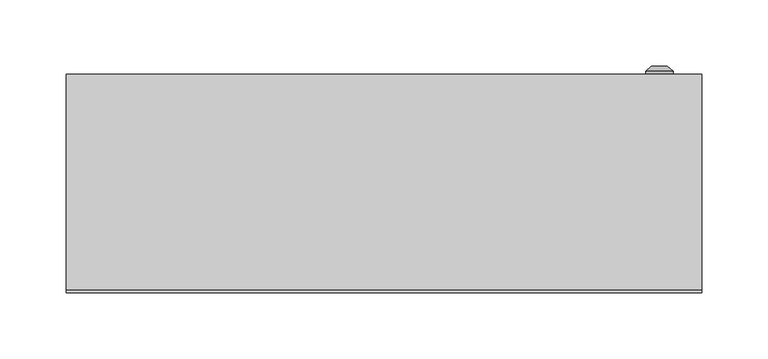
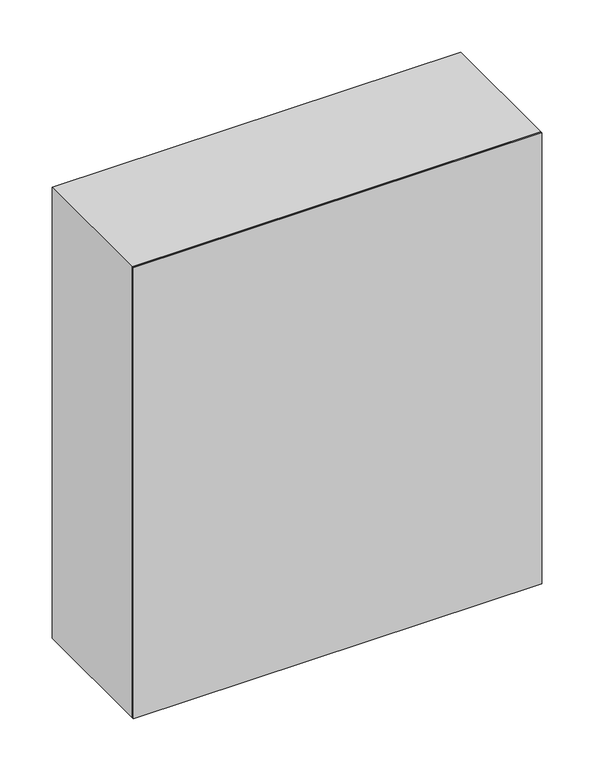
"""IFC4 building model written with IfcOpenShell, lengths in millimetres: proxy geometry, ЩУРН-3_24 : ЩУРН-3/24."""

from ifc_helpers import new_model, si_unit, point, frame, frame_2d, origin, origin_with_axes, place, context, project, spatial, polyline, circle_curve, trimmed, segment, composite_curve, outline, extrude, source, transform, mapped, element, save
from ifc_brep_helpers import plane_surface, cylinder_surface, revolved_surface, advanced_brep


def electrical_equipment_012ccbdc(model_context):
    return source(origin(), model_context, "Body", "SolidModel", [
        advanced_brep(
        [(197.669873, 165.0, 280.0), (218.330127, 165.0, 280.0), (208.0, 165.0, 280.0), (206.1080471, 171.0, 280.0), (209.8919529, 171.0, 280.0), (214.0, 171.0, 280.0), (202.0, 171.0, 280.0), (206.1080471, 169.9822294, 280.0), (209.8919529, 169.9822294, 280.0), (208.0, 169.9822294, 280.0), (197.669873, 167.366592, 280.0), (218.330127, 167.366592, 280.0)],
        [
            (0, 1, circle_curve(frame((208.0, 165.0, 280.0), z_axis=(0.0, -1.0, 0.0), x_axis=(1.0, 0.0, 0.0)), 10.330127)),
            (1, 2),
            (2, 0),
            (1, 0, circle_curve(frame((208.0, 165.0, 280.0), z_axis=(0.0, -1.0, 0.0), x_axis=(1.0, 0.0, 0.0)), 10.330127)),
            (3, 4, circle_curve(frame((208.0, 171.0, 280.0), z_axis=(0.0, -1.0, 0.0), x_axis=(1.0, 0.0, 0.0)), 1.8919529)),
            (4, 5),
            (5, 6, circle_curve(frame((208.0, 171.0, 280.0), z_axis=(0.0, 1.0, 0.0), x_axis=(1.0, 0.0, 0.0)), 6.0)),
            (6, 3),
            (4, 3, circle_curve(frame((208.0, 171.0, 280.0), z_axis=(0.0, -1.0, 0.0), x_axis=(1.0, 0.0, 0.0)), 1.8919529)),
            (6, 5, circle_curve(frame((208.0, 171.0, 280.0), z_axis=(0.0, 1.0, 0.0), x_axis=(1.0, 0.0, 0.0)), 6.0)),
            (7, 8, circle_curve(frame((208.0, 169.9822294, 280.0), z_axis=(0.0, -1.0, 0.0), x_axis=(1.0, 0.0, 0.0)), 1.8919529)),
            (8, 4),
            (3, 7),
            (8, 7, circle_curve(frame((208.0, 169.9822294, 280.0), z_axis=(0.0, -1.0, 0.0), x_axis=(1.0, 0.0, 0.0)), 1.8919529)),
            (9, 8),
            (7, 9),
            (10, 11, circle_curve(frame((208.0, 167.366592, 280.0), z_axis=(0.0, -1.0, 0.0), x_axis=(1.0, 0.0, 0.0)), 10.330127)),
            (11, 1),
            (0, 10),
            (11, 10, circle_curve(frame((208.0, 167.366592, 280.0), z_axis=(0.0, -1.0, 0.0), x_axis=(1.0, 0.0, 0.0)), 10.330127)),
            (5, 11),
            (10, 6),
        ],
        [
            plane_surface(frame((208.0, 165.0, 280.0), z_axis=(0.0, -1.0, 0.0), x_axis=(1.0, 0.0, 0.0))),
            plane_surface(frame((208.0, 171.0, 280.0), z_axis=(0.0, 1.0, 0.0), x_axis=(1.0, 0.0, 0.0))),
            revolved_surface(polyline([(209.8919529, 171.0, 280.0), (209.8919529, 169.9822294, 280.0)]), (208.0, 178.1348851, 280.0), (0.0, 1.0, 0.0)),
            plane_surface(frame((208.0, 169.9822294, 280.0), z_axis=(0.0, 1.0, 0.0), x_axis=(1.0, 0.0, 0.0))),
            cylinder_surface(frame((208.0, 178.1348851, 280.0), z_axis=(0.0, 1.0, 0.0), x_axis=(1.0, 0.0, 0.0)), 10.330127),
            revolved_surface(polyline([(218.330127, 167.366592, 280.0), (214.0, 171.0, 280.0)]), (208.0, 178.1348851, 280.0), (0.0, 1.0, 0.0)),
        ],
        [
            (0, [[1, 2, 3]]),
            (0, [[4, -3, -2]]),
            (1, [[5, 6, 7, 8]]),
            (1, [[9, -8, 10, -6]]),
            (2, [[11, 12, -5, 13]]),
            (2, [[14, -13, -9, -12]]),
            (3, [[15, -11, 16]]),
            (3, [[-16, -14, -15]]),
            (4, [[17, 18, -1, 19]]),
            (4, [[20, -19, -4, -18]]),
            (5, [[-7, 21, -17, 22]]),
            (5, [[-10, -22, -20, -21]]),
        ],
    ),
        extrude(outline(polyline([(544.0, -224.0), (16.0, -224.0), (16.0, 224.0), (544.0, 224.0), (544.0, -224.0)]), holes=[composite_curve([segment(polyline([(435.5, 55.0), (435.5, 85.0), (435.5, 115.0)]), True, "CONTINUOUS"), segment(trimmed(circle_curve(frame_2d((425.5, 115.0)), 10.0), [point((435.5, 115.0))], [point((425.5, 125.0))], True, "CARTESIAN"), True, "CONTINUOUS"), segment(polyline([(425.5, 125.0), (395.5, 125.0)]), True, "CONTINUOUS"), segment(trimmed(circle_curve(frame_2d((395.5, 115.0)), 10.0), [point((395.5, 125.0))], [point((385.5, 115.0))], True, "CARTESIAN"), True, "CONTINUOUS"), segment(polyline([(385.5, 115.0), (385.5, 55.0)]), True, "CONTINUOUS"), segment(trimmed(circle_curve(frame_2d((395.5, 55.0)), 10.0), [point((385.5, 55.0))], [point((395.5, 45.0))], True, "CARTESIAN"), True, "CONTINUOUS"), segment(polyline([(395.5, 45.0), (425.5, 45.0)]), True, "CONTINUOUS"), segment(trimmed(circle_curve(frame_2d((425.5, 55.0)), 10.0), [point((425.5, 45.0))], [point((435.5, 55.0))], True, "CARTESIAN"), True, "CONTINUOUS")], self_intersect=False)]), frame((0.0, 163.0, 0.0), z_axis=(0.0, 1.0, 0.0), x_axis=(0.0, 0.0, 1.0)), (0.0, 0.0, 1.0), 2.0),
        extrude(outline(polyline([(560.0, -240.0033905), (0.0, -240.0033905), (0.0, 239.9966095), (560.0, 239.9966095), (560.0, -240.0033905)]), holes=[polyline([(545.0, -225.0), (545.0, 225.0), (15.0, 225.0), (15.0, -225.0), (545.0, -225.0)])]), frame((0.0, 2.0, 0.0), z_axis=(0.0, 1.0, 0.0), x_axis=(0.0, 0.0, 1.0)), (0.0, 0.0, 1.0), 163.0),
        extrude(outline(polyline([(240.0, 0.0), (-240.0, 0.0), (-240.0, 2.0), (240.0, 2.0), (240.0, 0.0)])), origin_with_axes(), (0.0, 0.0, 1.0), 560.0),
    ])


if __name__ == "__main__":
    model = new_model("IFC4")
    model_context = context("Model", 3, world=origin())
    ifc_project = project(units=[si_unit("LENGTHUNIT", "METRE", prefix="MILLI")], contexts=[model_context])
    site = spatial("IfcSite", under=ifc_project)
    building = spatial("IfcBuilding", under=site)
    placement = place(None, origin())
    electrical_equipment_shape = electrical_equipment_012ccbdc(model_context)
    element("IfcBuildingElementProxy", 1, Name="ЩУРН-3_24 : ЩУРН-3/24", ObjectType="ЩУРН-3_24 : ЩУРН-3/24", at=placement, inside=building, context=model_context, shape_type="MappedRepresentation", body=[
        mapped(electrical_equipment_shape, transform((0.0, 0.0, 0.0), x_axis=(1.0, 0.0, 0.0), y_axis=(0.0, 1.0, 0.0), z_axis=(0.0, 0.0, 1.0))),
    ])
    save(model, "model.ifc")
